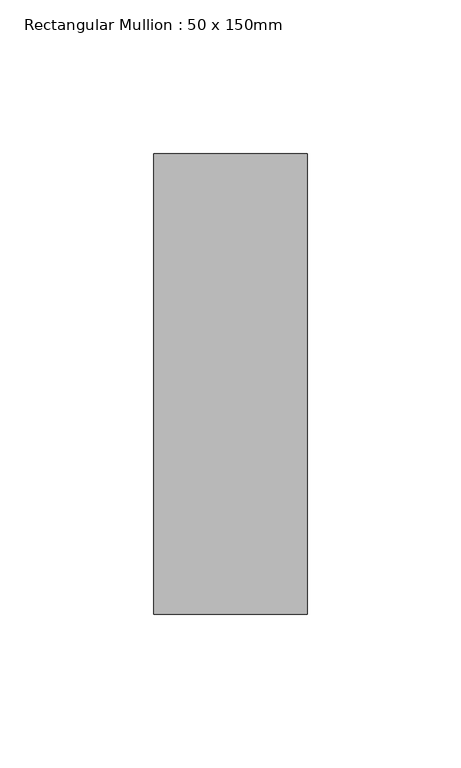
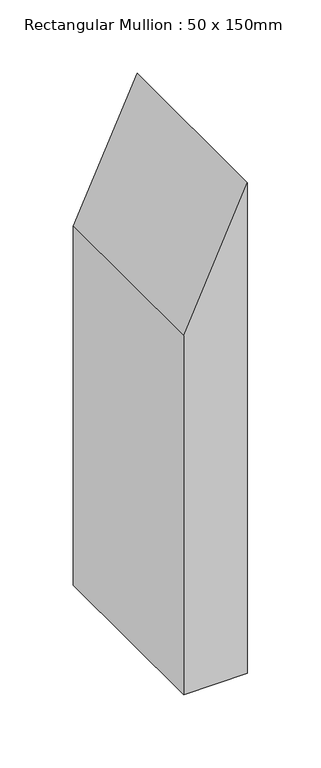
"""IFC4 building model written with IfcOpenShell, lengths in millimetres: member geometry, Rectangular Mullion : 50 x 150mm."""

from ifc_helpers import new_model, si_unit, frame, origin, place, context, project, spatial, polyline, outline, extrude, source, transform, mapped, element, save


def rectangular_mullion_50_x_150mm_cec43bf2(model_context):
    return source(origin(), model_context, "Body", "SweptSolid", [
        extrude(outline(polyline([(-65.5520338, 25.0), (-174.872752, -25.0), (-472.9915068, -25.0), (-472.9915068, 25.0), (-65.5520338, 25.0)])), frame((0.0, -75.0, 0.0), z_axis=(0.0, 1.0, 0.0), x_axis=(0.0, 0.0, 1.0)), (0.0, 0.0, 1.0), 150.0),
    ])


if __name__ == "__main__":
    model = new_model("IFC4")
    model_context = context("Model", 3, world=origin())
    ifc_project = project(units=[si_unit("LENGTHUNIT", "METRE", prefix="MILLI")], contexts=[model_context])
    site = spatial("IfcSite", under=ifc_project)
    building = spatial("IfcBuilding", under=site)
    placement = place(None, origin())
    rectangular_mullion_50_x_150mm_shape = rectangular_mullion_50_x_150mm_cec43bf2(model_context)
    element("IfcMember", 1, ObjectType="Rectangular Mullion : 50 x 150mm", at=placement, inside=building, context=model_context, shape_type="MappedRepresentation", body=[
        mapped(rectangular_mullion_50_x_150mm_shape, transform((0.0, 0.0, 0.0), x_axis=(1.0, 0.0, 0.0), y_axis=(0.0, 1.0, 0.0), z_axis=(0.0, 0.0, 1.0))),
    ])
    save(model, "model.ifc")
